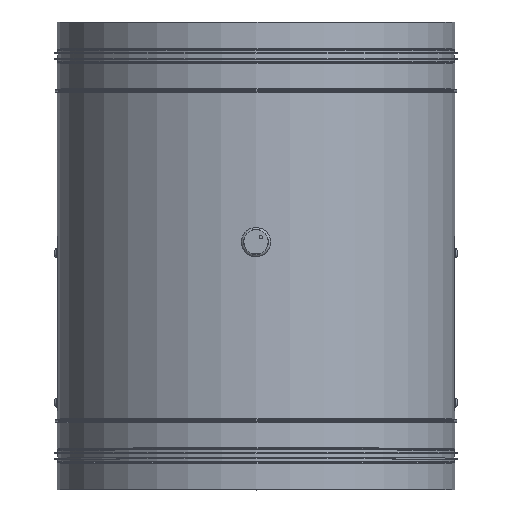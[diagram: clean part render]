
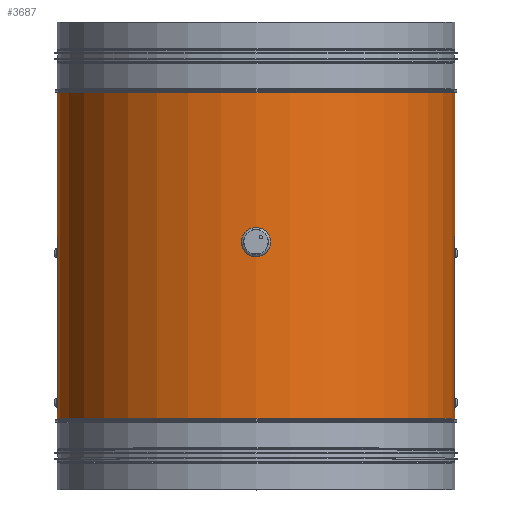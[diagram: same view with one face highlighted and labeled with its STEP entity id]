
A CAD part, top view. The second image highlights one B-rep face of the part: STEP entity #3687.
In plain terms, the highlighted cylindrical face has radius 176.5 mm (diameter 353 mm), a full revolution.
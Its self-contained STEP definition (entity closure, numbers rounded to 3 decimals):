
#108=CYLINDRICAL_SURFACE('',#4164,176.5);
#307=FACE_OUTER_BOUND('',#553,.T.);
#553=EDGE_LOOP('',(#2797,#2798,#2799,#2800));
#817=CIRCLE('',#4163,176.5);
#818=CIRCLE('',#4165,176.5);
#1001=LINE('',#5873,#1261);
#1066=LINE('',#6068,#1326);
#1261=VECTOR('',#4560,10.);
#1326=VECTOR('',#4753,10.);
#1521=VERTEX_POINT('',#5866);
#1523=VERTEX_POINT('',#5872);
#1587=VERTEX_POINT('',#6061);
#1589=VERTEX_POINT('',#6067);
#1849=EDGE_CURVE('',#1523,#1521,#1001,.T.);
#1946=EDGE_CURVE('',#1587,#1589,#1066,.T.);
#2049=EDGE_CURVE('',#1587,#1523,#817,.T.);
#2050=EDGE_CURVE('',#1589,#1521,#818,.T.);
#2797=ORIENTED_EDGE('',*,*,#1849,.T.);
#2798=ORIENTED_EDGE('',*,*,#2050,.F.);
#2799=ORIENTED_EDGE('',*,*,#1946,.F.);
#2800=ORIENTED_EDGE('',*,*,#2049,.T.);
#3687=ADVANCED_FACE('',(#307),#108,.T.);
#4163=AXIS2_PLACEMENT_3D('',#6271,#5051,#5052);
#4164=AXIS2_PLACEMENT_3D('',#6272,#5053,#5054);
#4165=AXIS2_PLACEMENT_3D('',#6273,#5055,#5056);
#4560=DIRECTION('',(0.,0.,-1.));
#4753=DIRECTION('',(0.,0.,-1.));
#5051=DIRECTION('center_axis',(0.,0.,-1.));
#5052=DIRECTION('ref_axis',(1.,0.,0.));
#5053=DIRECTION('center_axis',(0.,0.,-1.));
#5054=DIRECTION('ref_axis',(-1.,0.,0.));
#5055=DIRECTION('center_axis',(0.,0.,-1.));
#5056=DIRECTION('ref_axis',(1.,0.,0.));
#5866=CARTESIAN_POINT('',(176.5,0.031,-144.75));
#5872=CARTESIAN_POINT('',(176.5,0.031,144.75));
#5873=CARTESIAN_POINT('',(176.5,0.031,0.));
#6061=CARTESIAN_POINT('',(176.5,0.,144.75));
#6067=CARTESIAN_POINT('',(176.5,0.,-144.75));
#6068=CARTESIAN_POINT('',(176.5,0.,144.75));
#6271=CARTESIAN_POINT('Origin',(0.,0.,144.75));
#6272=CARTESIAN_POINT('Origin',(0.,0.,0.));
#6273=CARTESIAN_POINT('Origin',(0.,0.,-144.75));
